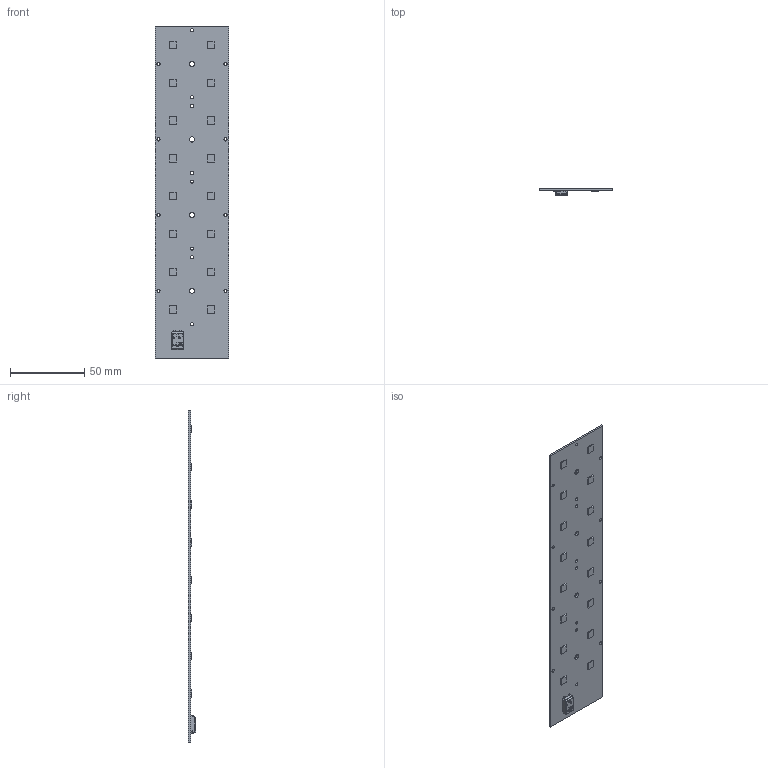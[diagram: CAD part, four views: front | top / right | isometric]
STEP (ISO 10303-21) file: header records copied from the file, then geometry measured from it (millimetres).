
FILE_DESCRIPTION(/* description */ ('Unknown'),/* implementation_level */ '2;1');
FILE_NAME(/* name */ 'RecLED 224x50mm 3800lm 740 2x8 5050 Opt G1 sh-000 2019-06-03',/* time_stamp */ '2019-06-03T12:45:09+02:00',/* author */ ('Unknown'),/* organization */ ('Unknown'),/* preprocessor_version */ 'ST-DEVELOPER v16.7',/* originating_system */ 'DEX',/* authorisation */ $);
FILE_SCHEMA (('AUTOMOTIVE_DESIGN {1 0 10303 214 3 1 1}'));
Length unit declared in the file: millimetre
Products named in the file (1): RecLED 224x50mm 3800lm 740 2x8 5050 Opt G1 sh-000 2019-06-03
Bounding box: 49.5 x 4.95 x 223 mm (x, y, z)
Volume: 16947 mm3; surface area: 23509.5 mm2
Topology: 1 solids, 1 shells, 541 faces, 1426 edges, 902 vertices
Faces by surface type: plane 277, cylinder 130, bspline 87, cone 26, torus 11, sphere 10
Full cylindrical faces by diameter (mm): 2.1 x16, 3.5 x4
Entity records: 22409 total; most frequent: CARTESIAN_POINT 6256, ORIENTED_EDGE 2734, DIRECTION 2196, EDGE_CURVE 1367, VERTEX_POINT 877, LINE 796, VECTOR 796, AXIS2_PLACEMENT_3D 700
